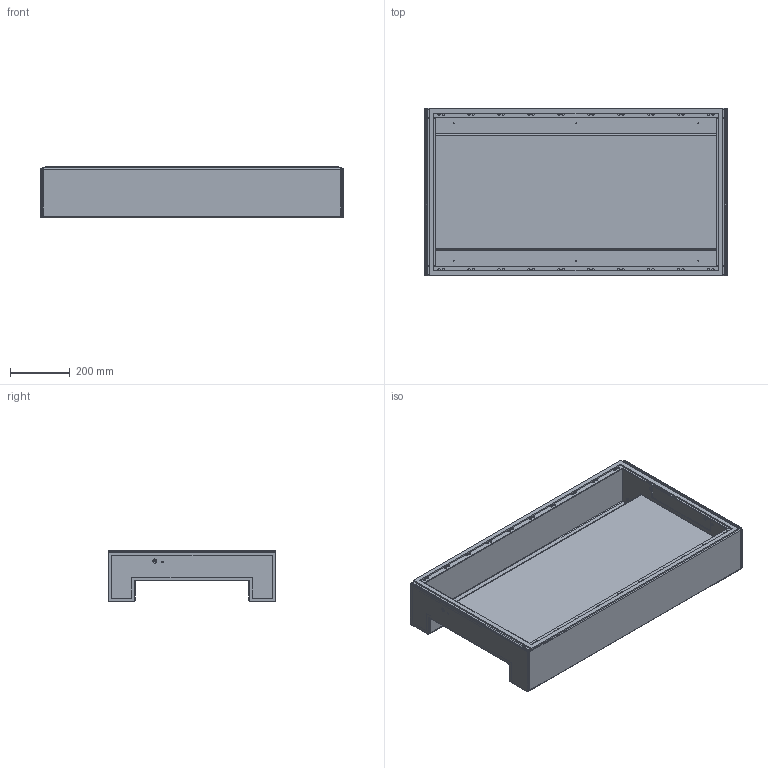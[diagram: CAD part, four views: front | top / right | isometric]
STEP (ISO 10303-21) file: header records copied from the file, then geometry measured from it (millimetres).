
FILE_DESCRIPTION (( 'STEP AP203' ), '1' );
FILE_NAME ('14155.step', '2013-03-29T08:21:03', ( '' ), ( '' ), 'SwSTEP 2.0', 'SolidWorks 2010', '' );
FILE_SCHEMA (( 'CONFIG_CONTROL_DESIGN' ));
Length unit declared in the file: inch
Products named in the file (13): 87781704; 87781738; 14155; 87781722; 87781734; 99411248; 87781908; 89062813; 60100041_60100041; 87931527_87931527; 87931368_SLEEVE; 89062906; 89062991
Assembly tree (18 placements, depth 4):
  14155
    87781908  x2
      89062813
      60100041_60100041
        87931368_SLEEVE
        87931527_87931527
    89062906  x2
    87781722
      87781704
      87781738  x2
        99411248
        87781734
    89062991
Bounding box: 1011.02 x 559 x 171.86 mm (x, y, z)
Volume: 4477942.1 mm3; surface area: 2869613.6 mm2
Topology: 20 solids, 20 shells, 644 faces, 1568 edges, 1010 vertices
Faces by surface type: plane 304, cylinder 252, sphere 64, cone 24
Entity records: 12160 total; most frequent: DIRECTION 1949, CARTESIAN_POINT 1780, ORIENTED_EDGE 1718, EDGE_CURVE 859, AXIS2_PLACEMENT_3D 717, VERTEX_POINT 548, LINE 515, VECTOR 515
